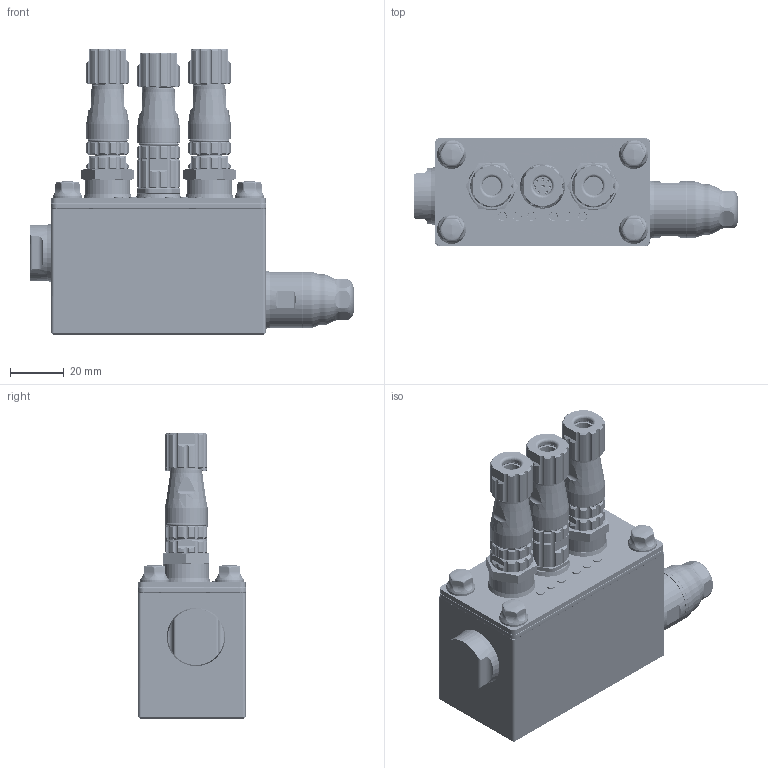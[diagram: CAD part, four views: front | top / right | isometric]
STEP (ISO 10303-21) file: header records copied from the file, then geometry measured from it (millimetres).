
FILE_DESCRIPTION((''),'1');
FILE_NAME('EMLC_3A.step','2024-03-15T10:54:49',(''),(''),'','','');
FILE_SCHEMA(('AUTOMOTIVE_DESIGN { 1 0 10303 214 1 1 1 1 }'));
Products named in the file (5): EMLC 3A; EMLC plug 01; EMLC cable gland 01; EMLC part 03
Assembly tree (4 placements, depth 2):
  EMLC 3A
    EMLC 3A
    EMLC plug 01
    EMLC cable gland 01
    EMLC part 03
Bounding box: 121 x 40.3 x 106.5 mm (x, y, z)
Volume: 201790.1 mm3; surface area: 49730.9 mm2
Topology: 6 solids, 10 shells, 3284 faces, 8877 edges, 5665 vertices
Faces by surface type: cylinder 1083, plane 1020, cone 582, bspline 391, torus 138, sphere 44, revolution 24, extrusion 2
Entity records: 246170 total; most frequent: CARTESIAN_POINT 166230, ORIENTED_EDGE 17594, DIRECTION 15851, EDGE_CURVE 8797, AXIS2_PLACEMENT_3D 6284, VERTEX_POINT 5665, EDGE_LOOP 3558, CIRCLE 3318
